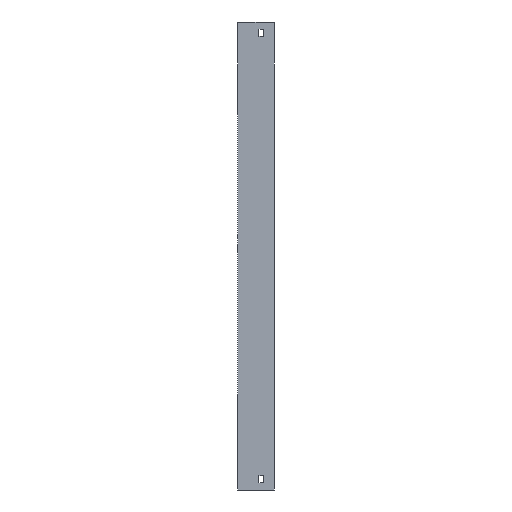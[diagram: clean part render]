
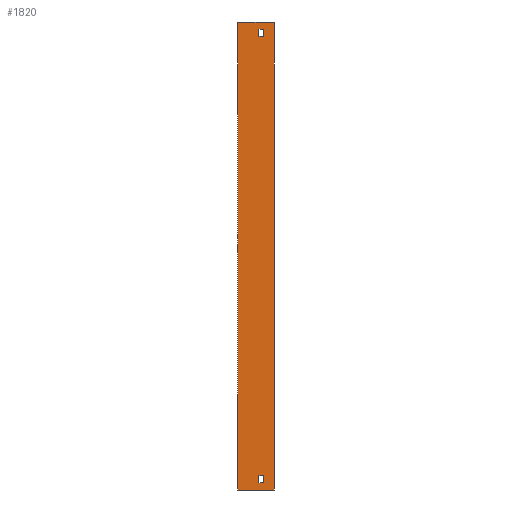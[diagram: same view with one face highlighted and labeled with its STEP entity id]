
A CAD part, left-side view. The second image highlights one B-rep face of the part: STEP entity #1820.
In plain terms, the highlighted planar face has unit normal (-1, 0, 0).
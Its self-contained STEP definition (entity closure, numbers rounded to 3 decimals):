
#14 = ORIENTED_EDGE ( 'NONE', *, *, #734, .F. ) ;
#47 = EDGE_CURVE ( 'NONE', #686, #1615, #894, .T. ) ;
#103 = CARTESIAN_POINT ( 'NONE',  ( -504., 0., -634. ) ) ;
#107 = ORIENTED_EDGE ( 'NONE', *, *, #1694, .T. ) ;
#116 = FACE_BOUND ( 'NONE', #1031, .T. ) ;
#126 = CARTESIAN_POINT ( 'NONE',  ( -504., 22., -614. ) ) ;
#130 = EDGE_CURVE ( 'NONE', #206, #798, #342, .T. ) ;
#161 = CARTESIAN_POINT ( 'NONE',  ( -504., 15., -624. ) ) ;
#172 = ORIENTED_EDGE ( 'NONE', *, *, #130, .F. ) ;
#191 = LINE ( 'NONE', #1565, #1451 ) ;
#206 = VERTEX_POINT ( 'NONE', #487 ) ;
#228 = CARTESIAN_POINT ( 'NONE',  ( -504., 0., 30. ) ) ;
#322 = ORIENTED_EDGE ( 'NONE', *, *, #599, .F. ) ;
#337 = VECTOR ( 'NONE', #757, 1000. ) ;
#342 = LINE ( 'NONE', #1518, #1063 ) ;
#360 = CARTESIAN_POINT ( 'NONE',  ( -504., 22., -624. ) ) ;
#414 = DIRECTION ( 'NONE',  ( 1., 0., 0. ) ) ;
#422 = VERTEX_POINT ( 'NONE', #1867 ) ;
#435 = ORIENTED_EDGE ( 'NONE', *, *, #1656, .T. ) ;
#447 = CARTESIAN_POINT ( 'NONE',  ( -504., 22., 10. ) ) ;
#487 = CARTESIAN_POINT ( 'NONE',  ( -504., 52., 30. ) ) ;
#496 = VECTOR ( 'NONE', #1706, 1000. ) ;
#520 = CARTESIAN_POINT ( 'NONE',  ( -504., 0., -634. ) ) ;
#539 = DIRECTION ( 'NONE',  ( 0., 0., -1. ) ) ;
#571 = AXIS2_PLACEMENT_3D ( 'NONE', #868, #414, #1012 ) ;
#595 = DIRECTION ( 'NONE',  ( 0., -1., 0. ) ) ;
#599 = EDGE_CURVE ( 'NONE', #778, #935, #191, .T. ) ;
#623 = DIRECTION ( 'NONE',  ( 0., -1., 0. ) ) ;
#686 = VERTEX_POINT ( 'NONE', #1744 ) ;
#693 = EDGE_CURVE ( 'NONE', #1639, #1207, #1620, .T. ) ;
#717 = CARTESIAN_POINT ( 'NONE',  ( -504., 22., -614. ) ) ;
#733 = VERTEX_POINT ( 'NONE', #1313 ) ;
#734 = EDGE_CURVE ( 'NONE', #935, #816, #1455, .T. ) ;
#750 = VECTOR ( 'NONE', #1726, 1000. ) ;
#757 = DIRECTION ( 'NONE',  ( 0., 0., 1. ) ) ;
#775 = FACE_OUTER_BOUND ( 'NONE', #1809, .T. ) ;
#778 = VERTEX_POINT ( 'NONE', #717 ) ;
#790 = DIRECTION ( 'NONE',  ( 0., 0., -1. ) ) ;
#798 = VERTEX_POINT ( 'NONE', #228 ) ;
#813 = VECTOR ( 'NONE', #1474, 1000. ) ;
#815 = VECTOR ( 'NONE', #1329, 1000. ) ;
#816 = VERTEX_POINT ( 'NONE', #1746 ) ;
#842 = EDGE_CURVE ( 'NONE', #422, #206, #1066, .T. ) ;
#867 = DIRECTION ( 'NONE',  ( 0., 1., 0. ) ) ;
#868 = CARTESIAN_POINT ( 'NONE',  ( -504., 52., -634. ) ) ;
#894 = LINE ( 'NONE', #1458, #1563 ) ;
#910 = LINE ( 'NONE', #161, #337 ) ;
#935 = VERTEX_POINT ( 'NONE', #360 ) ;
#962 = CARTESIAN_POINT ( 'NONE',  ( -504., 52., -634. ) ) ;
#995 = LINE ( 'NONE', #1586, #1763 ) ;
#1004 = LINE ( 'NONE', #1873, #1411 ) ;
#1011 = CARTESIAN_POINT ( 'NONE',  ( -504., 22., 10. ) ) ;
#1012 = DIRECTION ( 'NONE',  ( 0., 0., -1. ) ) ;
#1031 = EDGE_LOOP ( 'NONE', ( #1401, #1945, #435, #1762 ) ) ;
#1057 = ORIENTED_EDGE ( 'NONE', *, *, #842, .F. ) ;
#1063 = VECTOR ( 'NONE', #623, 1000. ) ;
#1066 = LINE ( 'NONE', #1368, #496 ) ;
#1099 = EDGE_LOOP ( 'NONE', ( #14, #322, #1654, #1635 ) ) ;
#1107 = VERTEX_POINT ( 'NONE', #520 ) ;
#1192 = VECTOR ( 'NONE', #1560, 1000. ) ;
#1207 = VERTEX_POINT ( 'NONE', #447 ) ;
#1313 = CARTESIAN_POINT ( 'NONE',  ( -504., 15., -614. ) ) ;
#1329 = DIRECTION ( 'NONE',  ( 0., 1., 0. ) ) ;
#1352 = EDGE_CURVE ( 'NONE', #816, #733, #910, .T. ) ;
#1368 = CARTESIAN_POINT ( 'NONE',  ( -504., 52., -634. ) ) ;
#1385 = FACE_BOUND ( 'NONE', #1099, .T. ) ;
#1401 = ORIENTED_EDGE ( 'NONE', *, *, #1630, .T. ) ;
#1411 = VECTOR ( 'NONE', #539, 1000. ) ;
#1414 = VECTOR ( 'NONE', #867, 1000. ) ;
#1434 = LINE ( 'NONE', #103, #750 ) ;
#1451 = VECTOR ( 'NONE', #790, 1000. ) ;
#1455 = LINE ( 'NONE', #1734, #813 ) ;
#1458 = CARTESIAN_POINT ( 'NONE',  ( -504., 22., 20. ) ) ;
#1471 = ORIENTED_EDGE ( 'NONE', *, *, #1894, .T. ) ;
#1474 = DIRECTION ( 'NONE',  ( 0., -1., 0. ) ) ;
#1475 = LINE ( 'NONE', #126, #815 ) ;
#1518 = CARTESIAN_POINT ( 'NONE',  ( -504., 52., 30. ) ) ;
#1560 = DIRECTION ( 'NONE',  ( 0., -1., 0. ) ) ;
#1563 = VECTOR ( 'NONE', #595, 1000. ) ;
#1565 = CARTESIAN_POINT ( 'NONE',  ( -504., 22., -624. ) ) ;
#1586 = CARTESIAN_POINT ( 'NONE',  ( -504., 22., 20. ) ) ;
#1615 = VERTEX_POINT ( 'NONE', #1692 ) ;
#1620 = LINE ( 'NONE', #1011, #1414 ) ;
#1630 = EDGE_CURVE ( 'NONE', #1207, #686, #995, .T. ) ;
#1635 = ORIENTED_EDGE ( 'NONE', *, *, #1352, .F. ) ;
#1639 = VERTEX_POINT ( 'NONE', #1906 ) ;
#1654 = ORIENTED_EDGE ( 'NONE', *, *, #1841, .F. ) ;
#1656 = EDGE_CURVE ( 'NONE', #1615, #1639, #1004, .T. ) ;
#1692 = CARTESIAN_POINT ( 'NONE',  ( -504., 15., 20. ) ) ;
#1694 = EDGE_CURVE ( 'NONE', #1107, #798, #1434, .T. ) ;
#1706 = DIRECTION ( 'NONE',  ( 0., 0., 1. ) ) ;
#1726 = DIRECTION ( 'NONE',  ( 0., 0., 1. ) ) ;
#1730 = LINE ( 'NONE', #962, #1192 ) ;
#1734 = CARTESIAN_POINT ( 'NONE',  ( -504., 22., -624. ) ) ;
#1744 = CARTESIAN_POINT ( 'NONE',  ( -504., 22., 20. ) ) ;
#1746 = CARTESIAN_POINT ( 'NONE',  ( -504., 15., -624. ) ) ;
#1762 = ORIENTED_EDGE ( 'NONE', *, *, #693, .T. ) ;
#1763 = VECTOR ( 'NONE', #1889, 1000. ) ;
#1765 = PLANE ( 'NONE',  #571 ) ;
#1809 = EDGE_LOOP ( 'NONE', ( #107, #172, #1057, #1471 ) ) ;
#1820 = ADVANCED_FACE ( 'NONE', ( #775, #116, #1385 ), #1765, .F. ) ;
#1841 = EDGE_CURVE ( 'NONE', #733, #778, #1475, .T. ) ;
#1867 = CARTESIAN_POINT ( 'NONE',  ( -504., 52., -634. ) ) ;
#1873 = CARTESIAN_POINT ( 'NONE',  ( -504., 15., 20. ) ) ;
#1889 = DIRECTION ( 'NONE',  ( 0., 0., 1. ) ) ;
#1894 = EDGE_CURVE ( 'NONE', #422, #1107, #1730, .T. ) ;
#1906 = CARTESIAN_POINT ( 'NONE',  ( -504., 15., 10. ) ) ;
#1945 = ORIENTED_EDGE ( 'NONE', *, *, #47, .T. ) ;
